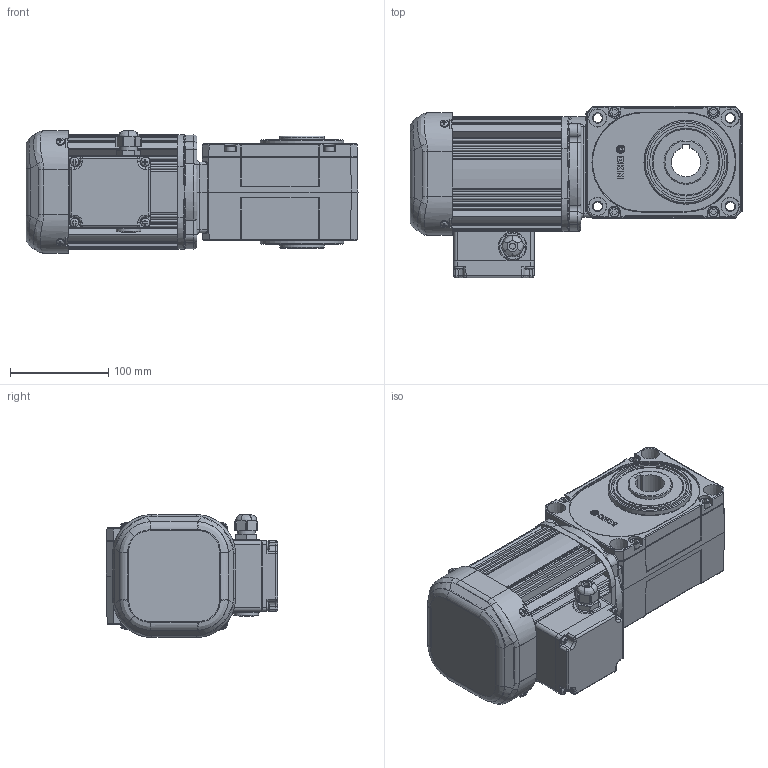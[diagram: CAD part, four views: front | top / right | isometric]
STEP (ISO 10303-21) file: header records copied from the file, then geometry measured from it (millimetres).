
FILE_DESCRIPTION (( 'STEP AP214' ), '1' );
FILE_NAME ('DSY30B-(40~60)N040-¤±.STEP', '2025-01-17T05:36:17', ( '' ), ( '' ), 'SwSTEP 2.0', 'SolidWorks 2024', '' );
FILE_SCHEMA (( 'AUTOMOTIVE_DESIGN' ));
Length unit declared in the file: millimetre
Products named in the file (14): DSY04L 감속기; 고무패킹-하; CASE-DSY04L-DC; 0.4KW 모터; 프렉시블_표준; COVER-DSY04L-DC; DKM 0.4kW 인발프레임; 단자박스 마개; DSY30B-(40~60)N040-ㅁ; 단자박스 ASS''Y; dkm 0.4kW 팬커버; DKM 단자대 상부수정도(20200120); 단자박스 하 수정; DKM 0.4kW 뒤커버
Assembly tree (13 placements, depth 3):
  DSY30B-(40~60)N040-ㅁ
    DSY04L 감속기
      CASE-DSY04L-DC
      COVER-DSY04L-DC
    0.4KW 모터
      DKM 0.4kW 인발프레임
      DKM 0.4kW 뒤커버
      dkm 0.4kW 팬커버
    단자박스 ASS''Y
      단자박스 하 수정
      프렉시블_표준
      단자박스 마개
      DKM 단자대 상부수정도(20200120)
      고무패킹-하
Bounding box: 338 x 174.5 x 125.06 mm (x, y, z)
Volume: 3639321.1 mm3; surface area: 441579.6 mm2
Topology: 10 solids, 10 shells, 1564 faces, 4033 edges, 2519 vertices
Faces by surface type: plane 729, cylinder 483, bspline 219, cone 70, torus 62, sphere 1
Full cylindrical faces by diameter (mm): 0.2 x3, 3.017 x2, 3.981 x2, 4.3 x4, 4.5 x4, 5 x4, 5.3 x4, 5.5 x4, 6 x5, 8.5 x4, 9 x4, 10 x4, 10.8 x1, 16.5 x1, 18 x5, 19 x2, 20 x3, 25 x1, 35 x1, 45 x3, 67 x2, 74 x2, 79 x2, 94.1 x1
Entity records: 58439 total; most frequent: CARTESIAN_POINT 22132, ORIENTED_EDGE 7674, DIRECTION 6998, EDGE_CURVE 3837, VERTEX_POINT 2485, AXIS2_PLACEMENT_3D 2433, VECTOR 2132, LINE 2132
